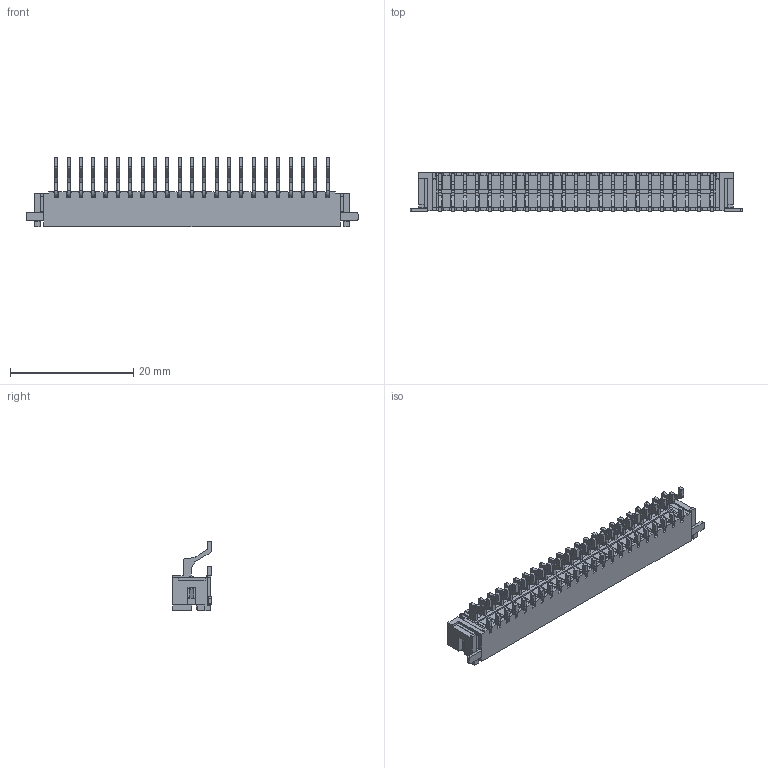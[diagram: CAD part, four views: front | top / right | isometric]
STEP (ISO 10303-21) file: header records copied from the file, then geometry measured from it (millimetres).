
FILE_DESCRIPTION(('CATIA V5 STEP Exchange'),'2;1');
FILE_NAME('\\Erp\共享文件夹\3D文件\小覃\条形连接器-小黄\PHD\2xNAWT\HC-PHD-2x23AWT-05(2.0 双排 卧贴-HCTL).stp','2025-03-05T07:24:36+00:00',('none'),('none'),'CATIA Version 5 Release 20 GA (IN-10)','CATIA V5 STEP AP203','none');
FILE_SCHEMA(('CONFIG_CONTROL_DESIGN'));
Length unit declared in the file: millimetre
Products named in the file (1): Part1
Bounding box: 53.86 x 6.3 x 11.3 mm (x, y, z)
Volume: 1049.4 mm3; surface area: 3300 mm2
Topology: 1 solids, 1 shells, 1913 faces, 5610 edges, 3578 vertices
Faces by surface type: plane 1540, cylinder 373
Entity records: 54174 total; most frequent: ORIENTED_EDGE 11220, CARTESIAN_POINT 9562, DIRECTION 6332, EDGE_CURVE 5610, VECTOR 4856, LINE 4856, VERTEX_POINT 3578, EDGE_LOOP 1984
